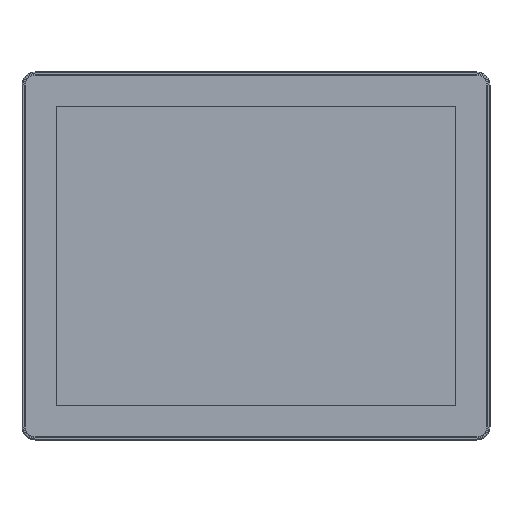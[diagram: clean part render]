
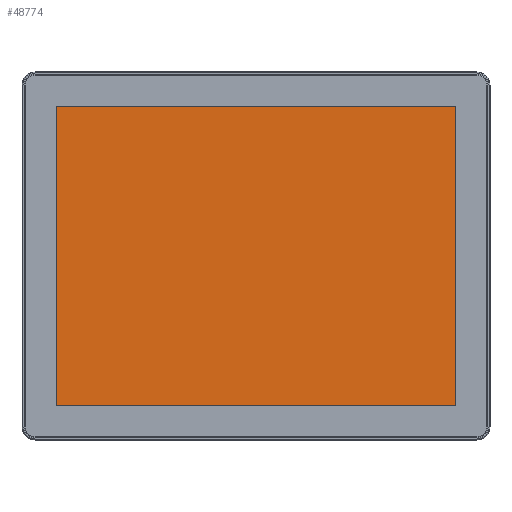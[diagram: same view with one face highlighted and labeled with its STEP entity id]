
A CAD part, top view. The second image highlights one B-rep face of the part: STEP entity #48774.
In plain terms, the highlighted planar face has unit normal (0, 0, 1) as drawn and (0, -1, 0) by its records, which use the part's own axes.
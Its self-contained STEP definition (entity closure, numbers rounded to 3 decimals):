
#851 = DIRECTION ( 'NONE',  ( 0., 0., 1. ) ) ;
#4230 = VECTOR ( 'NONE', #851, 1000. ) ;
#19841 = VECTOR ( 'NONE', #152953, 1000. ) ;
#23904 = CARTESIAN_POINT ( 'NONE',  ( 152., -3.9, 114. ) ) ;
#24322 = EDGE_LOOP ( 'NONE', ( #250894, #281406, #264396, #160336 ) ) ;
#28201 = PLANE ( 'NONE',  #104433 ) ;
#46453 = EDGE_CURVE ( 'NONE', #177164, #238800, #182333, .T. ) ;
#46773 = LINE ( 'NONE', #137511, #64613 ) ;
#48774 = ADVANCED_FACE ( 'NONE', ( #252810 ), #28201, .T. ) ;
#56885 = EDGE_CURVE ( 'NONE', #247580, #177164, #46773, .T. ) ;
#64613 = VECTOR ( 'NONE', #165657, 1000. ) ;
#83074 = CARTESIAN_POINT ( 'NONE',  ( -152., -3.9, -114. ) ) ;
#96566 = DIRECTION ( 'NONE',  ( 0., -1., 0. ) ) ;
#104433 = AXIS2_PLACEMENT_3D ( 'NONE', #209660, #96566, #187380 ) ;
#105338 = CARTESIAN_POINT ( 'NONE',  ( 152., -3.9, 114. ) ) ;
#117823 = LINE ( 'NONE', #83074, #19841 ) ;
#118680 = CARTESIAN_POINT ( 'NONE',  ( -152., -3.9, 114. ) ) ;
#134581 = CARTESIAN_POINT ( 'NONE',  ( -152., -3.9, -114. ) ) ;
#137511 = CARTESIAN_POINT ( 'NONE',  ( 152., -3.9, -114. ) ) ;
#144416 = EDGE_CURVE ( 'NONE', #238800, #239286, #243591, .T. ) ;
#152953 = DIRECTION ( 'NONE',  ( 0., 0., -1. ) ) ;
#160336 = ORIENTED_EDGE ( 'NONE', *, *, #144416, .T. ) ;
#165657 = DIRECTION ( 'NONE',  ( 1., 0., 0. ) ) ;
#177164 = VERTEX_POINT ( 'NONE', #258094 ) ;
#182333 = LINE ( 'NONE', #290921, #4230 ) ;
#187380 = DIRECTION ( 'NONE',  ( 0., 0., -1. ) ) ;
#191354 = EDGE_CURVE ( 'NONE', #239286, #247580, #117823, .T. ) ;
#209660 = CARTESIAN_POINT ( 'NONE',  ( -168., -3.9, 130. ) ) ;
#222753 = DIRECTION ( 'NONE',  ( -1., 0., 0. ) ) ;
#235665 = VECTOR ( 'NONE', #222753, 1000. ) ;
#238800 = VERTEX_POINT ( 'NONE', #23904 ) ;
#239286 = VERTEX_POINT ( 'NONE', #118680 ) ;
#243591 = LINE ( 'NONE', #105338, #235665 ) ;
#247580 = VERTEX_POINT ( 'NONE', #134581 ) ;
#250894 = ORIENTED_EDGE ( 'NONE', *, *, #191354, .T. ) ;
#252810 = FACE_OUTER_BOUND ( 'NONE', #24322, .T. ) ;
#258094 = CARTESIAN_POINT ( 'NONE',  ( 152., -3.9, -114. ) ) ;
#264396 = ORIENTED_EDGE ( 'NONE', *, *, #46453, .T. ) ;
#281406 = ORIENTED_EDGE ( 'NONE', *, *, #56885, .T. ) ;
#290921 = CARTESIAN_POINT ( 'NONE',  ( 152., -3.9, -114. ) ) ;
